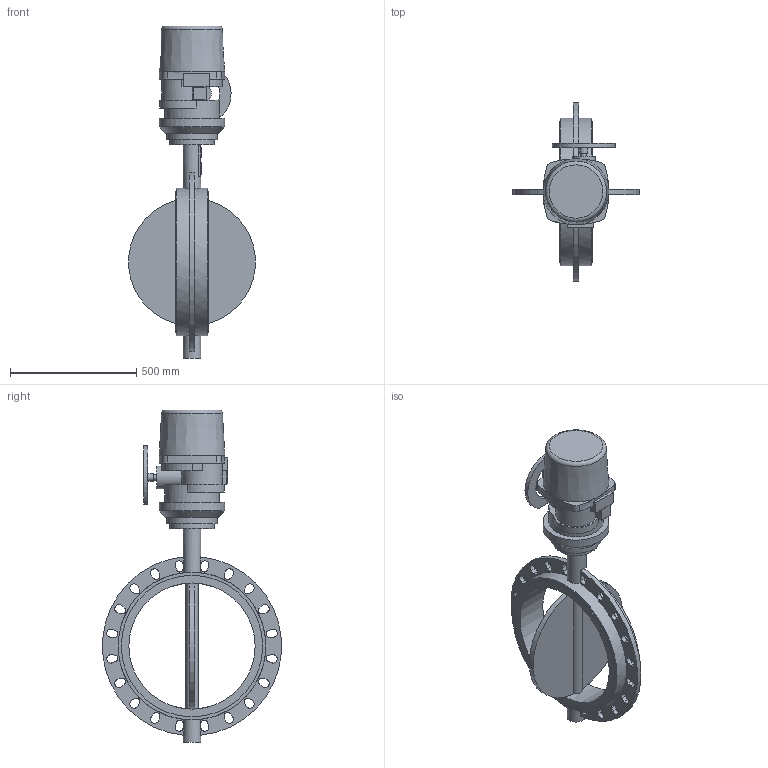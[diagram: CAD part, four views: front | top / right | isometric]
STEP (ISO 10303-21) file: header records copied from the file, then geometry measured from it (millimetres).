
FILE_DESCRIPTION(('STEP AP203'), '1');
FILE_NAME('青蜮铕 017WDN500+菹 QT250-0,3', '', ('UNSPECIFIED'), ('UNSPECIFIED'), 'ASCON STEP Converter 1.6', 'ASCON Math Kernel', '');
FILE_SCHEMA(('CONFIG_CONTROL_DESIGN'));
Length unit declared in the file: millimetre
Bounding box: 501.16 x 707.32 x 1315 mm (x, y, z)
Volume: 38477109.8 mm3; surface area: 1952536.8 mm2
Topology: 1 solids, 1 shells, 789 faces, 2245 edges, 1489 vertices
Faces by surface type: cylinder 542, plane 244, cone 2, torus 1
Full cylindrical faces by diameter (mm): 18 x8, 20.595 x1, 30 x1, 70 x2, 90 x1, 175 x1, 200 x1, 215 x1, 260 x1, 500 x1, 560 x2, 585 x2
Entity records: 33471 total; most frequent: CARTESIAN_POINT 5489, DIRECTION 4905, ORIENTED_EDGE 4440, EDGE_CURVE 2220, AXIS2_PLACEMENT_3D 1916, VERTEX_POINT 1489, CIRCLE 1126, LINE 1073
